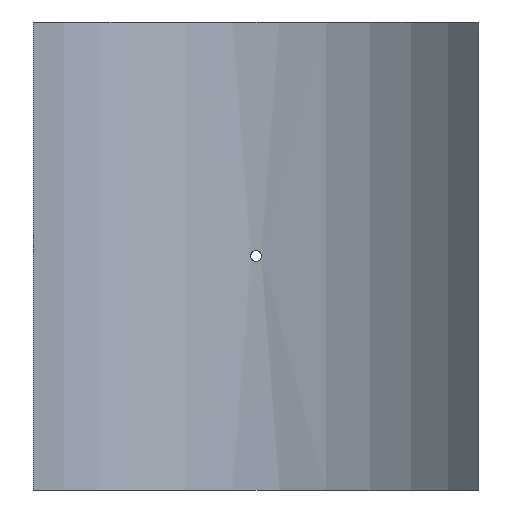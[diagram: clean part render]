
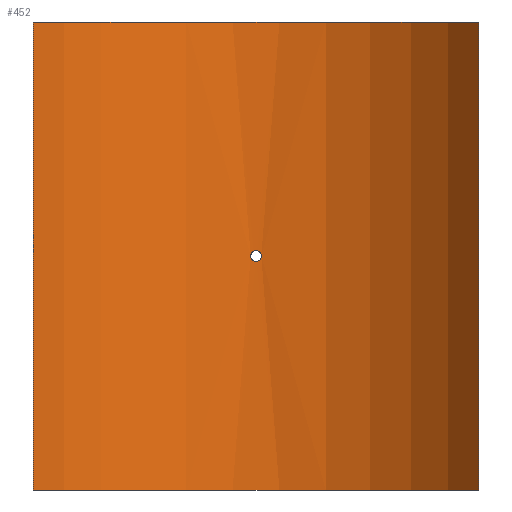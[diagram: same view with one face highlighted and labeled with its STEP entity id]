
A CAD part, front view. The second image highlights one B-rep face of the part: STEP entity #452.
In plain terms, the highlighted cylindrical face has radius 250 mm (diameter 500 mm), a partial arc.
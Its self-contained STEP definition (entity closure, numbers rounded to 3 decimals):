
#19=B_SPLINE_CURVE_WITH_KNOTS('',3,(#788,#789,#790,#791,#792,#793,#794,
#795,#796,#797,#798,#799,#800,#801,#802,#803,#804,#805,#806,#807,#808,#809,
#810,#811,#812,#813,#814,#815,#816,#817,#818,#819,#820,#821),
 .UNSPECIFIED.,.T.,.F.,(4,2,2,2,2,2,2,2,2,2,2,2,2,2,2,2,4),(0.,0.181,
0.362,0.542,0.723,0.904,
1.085,1.266,1.447,1.627,1.808,
1.989,2.17,2.351,2.531,2.712,
2.893),.UNSPECIFIED.);
#43=LINE('',#1065,#62);
#44=LINE('',#1068,#63);
#62=VECTOR('',#661,10.);
#63=VECTOR('',#664,10.);
#76=CYLINDRICAL_SURFACE('',#530,250.);
#88=FACE_BOUND('',#167,.T.);
#127=FACE_OUTER_BOUND('',#166,.T.);
#166=EDGE_LOOP('',(#405,#406,#407,#408));
#167=EDGE_LOOP('',(#409));
#201=CIRCLE('',#529,250.);
#202=CIRCLE('',#531,250.);
#219=VERTEX_POINT('',#786);
#242=VERTEX_POINT('',#1058);
#243=VERTEX_POINT('',#1060);
#244=VERTEX_POINT('',#1064);
#245=VERTEX_POINT('',#1066);
#267=EDGE_CURVE('',#219,#219,#19,.T.);
#299=EDGE_CURVE('',#242,#243,#201,.T.);
#301=EDGE_CURVE('',#244,#242,#43,.T.);
#302=EDGE_CURVE('',#245,#244,#202,.T.);
#303=EDGE_CURVE('',#245,#243,#44,.T.);
#405=ORIENTED_EDGE('',*,*,#301,.F.);
#406=ORIENTED_EDGE('',*,*,#302,.F.);
#407=ORIENTED_EDGE('',*,*,#303,.T.);
#408=ORIENTED_EDGE('',*,*,#299,.F.);
#409=ORIENTED_EDGE('',*,*,#267,.T.);
#452=ADVANCED_FACE('',(#127,#88),#76,.F.);
#529=AXIS2_PLACEMENT_3D('',#1061,#656,#657);
#530=AXIS2_PLACEMENT_3D('',#1063,#659,#660);
#531=AXIS2_PLACEMENT_3D('',#1067,#662,#663);
#656=DIRECTION('center_axis',(0.,0.,1.));
#657=DIRECTION('ref_axis',(0.8,0.6,0.));
#659=DIRECTION('center_axis',(0.,0.,1.));
#660=DIRECTION('ref_axis',(0.8,0.6,0.));
#661=DIRECTION('',(0.,0.,-1.));
#662=DIRECTION('center_axis',(0.,0.,-1.));
#663=DIRECTION('ref_axis',(0.8,0.6,0.));
#664=DIRECTION('',(0.,0.,-1.));
#786=CARTESIAN_POINT('',(4.8,249.954,0.));
#788=CARTESIAN_POINT('Ctrl Pts',(4.8,249.954,0.));
#789=CARTESIAN_POINT('Ctrl Pts',(4.8,249.954,-0.603));
#790=CARTESIAN_POINT('Ctrl Pts',(4.68,249.956,-1.246));
#791=CARTESIAN_POINT('Ctrl Pts',(4.19,249.965,-2.428));
#792=CARTESIAN_POINT('Ctrl Pts',(3.82,249.971,-2.968));
#793=CARTESIAN_POINT('Ctrl Pts',(2.968,249.983,-3.82));
#794=CARTESIAN_POINT('Ctrl Pts',(2.428,249.989,-4.19));
#795=CARTESIAN_POINT('Ctrl Pts',(1.246,249.998,-4.68));
#796=CARTESIAN_POINT('Ctrl Pts',(0.603,250.,-4.8));
#797=CARTESIAN_POINT('Ctrl Pts',(-0.603,250.,-4.8));
#798=CARTESIAN_POINT('Ctrl Pts',(-1.246,249.998,-4.68));
#799=CARTESIAN_POINT('Ctrl Pts',(-2.428,249.989,-4.19));
#800=CARTESIAN_POINT('Ctrl Pts',(-2.968,249.983,-3.82));
#801=CARTESIAN_POINT('Ctrl Pts',(-3.82,249.971,-2.968));
#802=CARTESIAN_POINT('Ctrl Pts',(-4.19,249.965,-2.428));
#803=CARTESIAN_POINT('Ctrl Pts',(-4.68,249.956,-1.246));
#804=CARTESIAN_POINT('Ctrl Pts',(-4.8,249.954,-0.603));
#805=CARTESIAN_POINT('Ctrl Pts',(-4.8,249.954,0.603));
#806=CARTESIAN_POINT('Ctrl Pts',(-4.68,249.956,1.246));
#807=CARTESIAN_POINT('Ctrl Pts',(-4.19,249.965,2.428));
#808=CARTESIAN_POINT('Ctrl Pts',(-3.82,249.971,2.968));
#809=CARTESIAN_POINT('Ctrl Pts',(-2.968,249.983,3.82));
#810=CARTESIAN_POINT('Ctrl Pts',(-2.428,249.989,4.19));
#811=CARTESIAN_POINT('Ctrl Pts',(-1.246,249.998,4.68));
#812=CARTESIAN_POINT('Ctrl Pts',(-0.603,250.,4.8));
#813=CARTESIAN_POINT('Ctrl Pts',(0.603,250.,4.8));
#814=CARTESIAN_POINT('Ctrl Pts',(1.246,249.998,4.68));
#815=CARTESIAN_POINT('Ctrl Pts',(2.428,249.989,4.19));
#816=CARTESIAN_POINT('Ctrl Pts',(2.968,249.983,3.82));
#817=CARTESIAN_POINT('Ctrl Pts',(3.82,249.971,2.968));
#818=CARTESIAN_POINT('Ctrl Pts',(4.19,249.965,2.428));
#819=CARTESIAN_POINT('Ctrl Pts',(4.68,249.956,1.246));
#820=CARTESIAN_POINT('Ctrl Pts',(4.8,249.954,0.603));
#821=CARTESIAN_POINT('Ctrl Pts',(4.8,249.954,0.));
#1058=CARTESIAN_POINT('',(200.,150.,-210.));
#1060=CARTESIAN_POINT('',(-200.,150.,-210.));
#1061=CARTESIAN_POINT('Origin',(0.,0.,
-210.));
#1063=CARTESIAN_POINT('Origin',(0.,0.,
0.));
#1064=CARTESIAN_POINT('',(200.,150.,210.));
#1065=CARTESIAN_POINT('',(200.,150.,0.));
#1066=CARTESIAN_POINT('',(-200.,150.,210.));
#1067=CARTESIAN_POINT('Origin',(0.,0.,
210.));
#1068=CARTESIAN_POINT('',(-200.,150.,0.));
